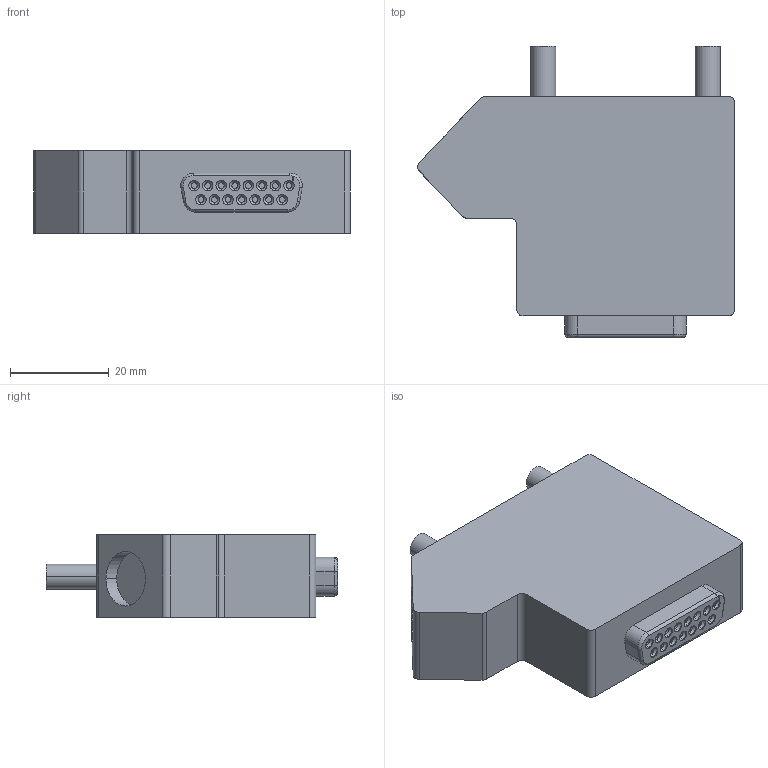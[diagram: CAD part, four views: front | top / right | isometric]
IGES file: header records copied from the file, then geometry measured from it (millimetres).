
Start section:  PTC IGES file: conn_crio_db_15_tb.igs
Global section: file name: conn_crio_db_15_tb.igs; native system: Pro/ENGINEER by Parametric Technology Corporation; preprocessor: 2006300; author: chrisj; organization: Unknown; date: 20070228.102025; units: inch
Bounding box: 64.22 x 59 x 16.64 mm (x, y, z)
Surface area: 8724.2 mm2 (no closed solid volume)
Topology: 0 solids, 0 shells, 155 faces, 666 edges, 666 vertices
Faces by surface type: revolution 115, bspline 40
